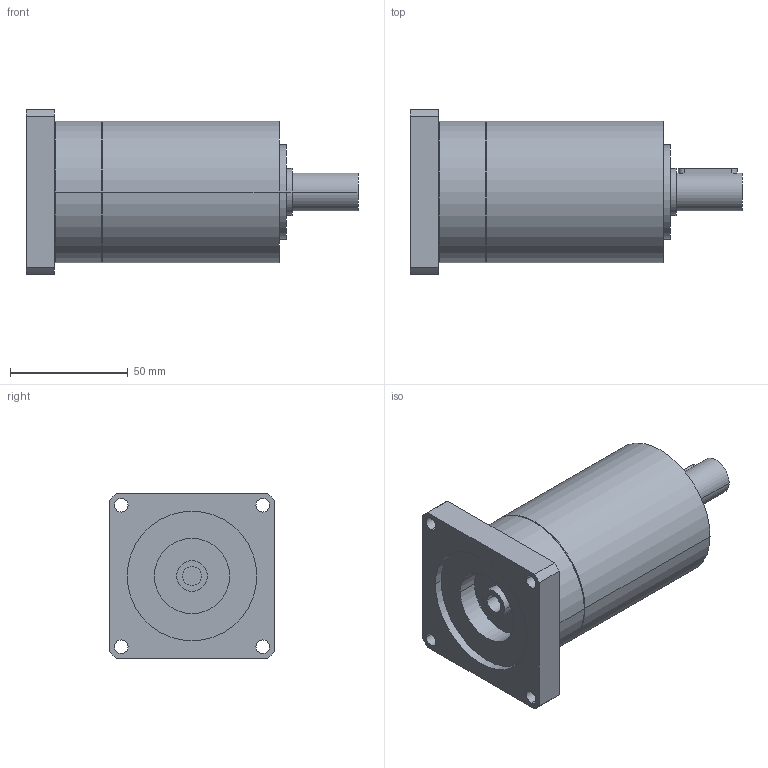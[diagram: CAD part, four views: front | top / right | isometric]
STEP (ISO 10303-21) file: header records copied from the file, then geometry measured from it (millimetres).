
FILE_DESCRIPTION(('CoCreate Modeling STEP Export'),'2;1');
FILE_NAME('GPR75_ig-9-12-16-20-24-30-36_16_B14_8_P25.stp','2014-08-25T16:06:15',(''),(''),'CoCreate Modeling STEP processor for AP214 (Solid Model)','CoCreate Modeling 16.00C 25-Feb-2009 (C) Parametric Technology GmbH','');
FILE_SCHEMA(('AUTOMOTIVE_DESIGN { 1 0 10303 214 1 1 1 1 }'));
Length unit declared in the file: millimetre
Products named in the file (2): GPR75_ig-9-12-16-20-24-30-36_16_B14_8_P25
Assembly tree (1 placements, depth 2):
  GPR75_ig-9-12-16-20-24-30-36_16_B14_8_P25
    GPR75_ig-9-12-16-20-24-30-36_16_B14_8_P25
Bounding box: 141 x 70 x 70 mm (x, y, z)
Volume: 320996.7 mm3; surface area: 40708.1 mm2
Topology: 1 solids, 1 shells, 73 faces, 198 edges, 140 vertices
Faces by surface type: cylinder 44, plane 23, cone 6
Entity records: 2024 total; most frequent: ORIENTED_EDGE 392, CARTESIAN_POINT 374, DIRECTION 272, EDGE_CURVE 196, VERTEX_POINT 140, AXIS2_PLACEMENT_3D 102, EDGE_LOOP 96, FACE_OUTER_BOUND 73
